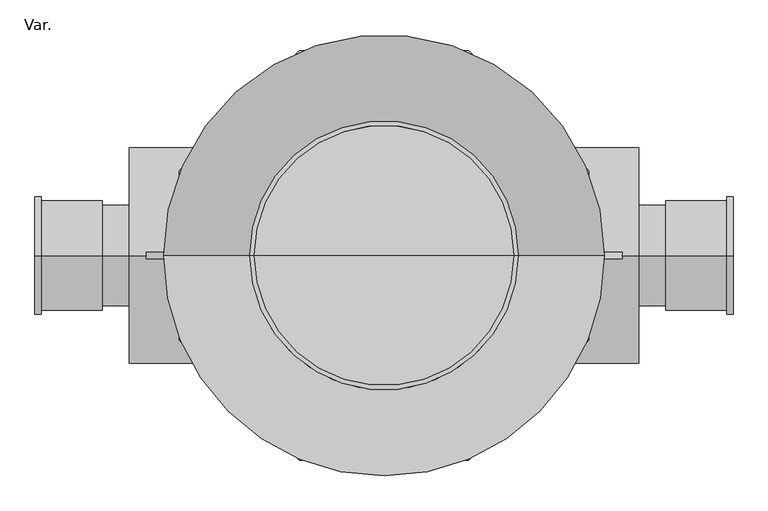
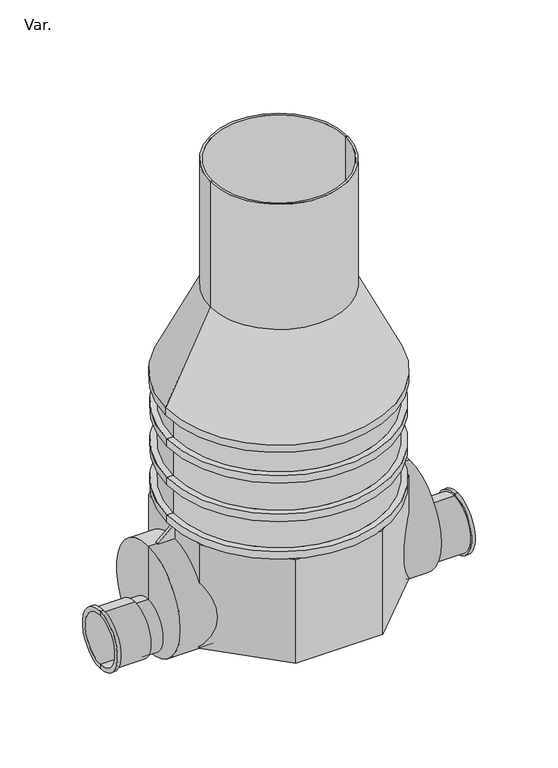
"""IFC4 building model written with IfcOpenShell, lengths in millimetres: pipe fitting geometry, PlastigamaWavin_Unionesdetubería_NovafortManholeIntegrado : Var.."""

from ifc_helpers import new_model, si_unit, frame, origin, origin_with_axes, place, context, project, spatial, polyline, circle_curve, outline, extrude, source, transform, mapped, element, save
from ifc_brep_helpers import plane_surface, cylinder_surface, revolved_surface, advanced_brep


def var_684be0d4(model_context):
    return source(origin(), model_context, "Body", "SolidModel", [
        extrude(outline(polyline([(409.73, 555.79), (484.73, 475.79), (409.73, 475.79), (409.73, 555.79)])), frame((0.0, -7.5, 0.0), z_axis=(0.0, 1.0, 0.0), x_axis=(0.0, 0.0, 1.0)), (0.0, 0.0, 1.0), 15.0),
        advanced_brep(
        [(592.49, 0.0, -77.76), (592.49, 0.0, 156.84), (654.49, 0.0, 156.84), (654.49, 0.0, -77.76), (654.49, 0.0, 166.84), (654.49, 0.0, -87.76), (796.49, 0.0, 166.84), (796.49, 0.0, -87.76), (592.49, 0.0, 39.54), (796.49, 0.0, 176.84), (796.49, 0.0, -97.76), (811.49, 0.0, 176.84), (811.49, 0.0, -97.76), (811.49, 0.0, 156.84), (811.49, 0.0, -77.76), (669.49, 0.0, 156.84), (669.49, 0.0, -77.76), (669.49, 0.0, 39.54)],
        [
            (0, 1, circle_curve(frame((592.49, 0.0, 39.54), z_axis=(1.0, 0.0, 0.0), x_axis=(0.0, 0.0, 1.0)), 117.3)),
            (1, 2),
            (2, 3, circle_curve(frame((654.49, 0.0, 39.54), z_axis=(-1.0, 0.0, 0.0), x_axis=(0.0, 0.0, 1.0)), 117.3)),
            (3, 0),
            (1, 0, circle_curve(frame((592.49, 0.0, 39.54), z_axis=(1.0, 0.0, 0.0), x_axis=(0.0, 0.0, 1.0)), 117.3)),
            (3, 2, circle_curve(frame((654.49, 0.0, 39.54), z_axis=(-1.0, 0.0, 0.0), x_axis=(0.0, 0.0, 1.0)), 117.3)),
            (2, 4),
            (4, 5, circle_curve(frame((654.49, 0.0, 39.54), z_axis=(-1.0, 0.0, 0.0), x_axis=(0.0, 0.0, 1.0)), 127.3)),
            (5, 3),
            (5, 4, circle_curve(frame((654.49, 0.0, 39.54), z_axis=(-1.0, 0.0, 0.0), x_axis=(0.0, 0.0, 1.0)), 127.3)),
            (4, 6),
            (6, 7, circle_curve(frame((796.49, 0.0, 39.54), z_axis=(-1.0, 0.0, 0.0), x_axis=(0.0, 0.0, 1.0)), 127.3)),
            (7, 5),
            (7, 6, circle_curve(frame((796.49, 0.0, 39.54), z_axis=(-1.0, 0.0, 0.0), x_axis=(0.0, 0.0, 1.0)), 127.3)),
            (8, 1),
            (0, 8),
            (6, 9),
            (9, 10, circle_curve(frame((796.49, 0.0, 39.54), z_axis=(-1.0, 0.0, 0.0), x_axis=(0.0, 0.0, 1.0)), 137.3)),
            (10, 7),
            (10, 9, circle_curve(frame((796.49, 0.0, 39.54), z_axis=(-1.0, 0.0, 0.0), x_axis=(0.0, 0.0, 1.0)), 137.3)),
            (9, 11),
            (11, 12, circle_curve(frame((811.49, 0.0, 39.54), z_axis=(-1.0, 0.0, 0.0), x_axis=(0.0, 0.0, 1.0)), 137.3)),
            (12, 10),
            (12, 11, circle_curve(frame((811.49, 0.0, 39.54), z_axis=(-1.0, 0.0, 0.0), x_axis=(0.0, 0.0, 1.0)), 137.3)),
            (11, 13),
            (13, 14, circle_curve(frame((811.49, 0.0, 39.54), z_axis=(-1.0, 0.0, 0.0), x_axis=(0.0, 0.0, 1.0)), 117.3)),
            (14, 12),
            (14, 13, circle_curve(frame((811.49, 0.0, 39.54), z_axis=(-1.0, 0.0, 0.0), x_axis=(0.0, 0.0, 1.0)), 117.3)),
            (13, 15),
            (15, 16, circle_curve(frame((669.49, 0.0, 39.54), z_axis=(-1.0, 0.0, 0.0), x_axis=(0.0, 0.0, 1.0)), 117.3)),
            (16, 14),
            (16, 15, circle_curve(frame((669.49, 0.0, 39.54), z_axis=(-1.0, 0.0, 0.0), x_axis=(0.0, 0.0, 1.0)), 117.3)),
            (15, 17),
            (17, 16),
        ],
        [
            cylinder_surface(frame((1076.44, 0.0, 39.54), z_axis=(-1.0, 0.0, 0.0), x_axis=(0.0, 0.0, 1.0)), 117.3),
            plane_surface(frame((654.49, 0.0, 39.54), z_axis=(-1.0, 0.0, 0.0), x_axis=(0.0, 0.0, 1.0))),
            cylinder_surface(frame((1076.44, 0.0, 39.54), z_axis=(-1.0, 0.0, 0.0), x_axis=(0.0, 0.0, 1.0)), 127.3),
            plane_surface(frame((592.49, 0.0, 39.54), z_axis=(-1.0, 0.0, 0.0), x_axis=(0.0, 0.0, 1.0))),
            plane_surface(frame((796.49, 0.0, 39.54), z_axis=(-1.0, 0.0, 0.0), x_axis=(0.0, 0.0, 1.0))),
            cylinder_surface(frame((1076.44, 0.0, 39.54), z_axis=(-1.0, 0.0, 0.0), x_axis=(0.0, 0.0, 1.0)), 137.3),
            plane_surface(frame((811.49, 0.0, 39.54), z_axis=(1.0, 0.0, 0.0), x_axis=(0.0, 0.0, 1.0))),
            revolved_surface(polyline([(669.49, 0.0, 156.84), (811.49, 0.0, 156.84)]), (1076.44, 0.0, 39.54), (-1.0, 0.0, 0.0)),
            plane_surface(frame((669.49, 0.0, 39.54), z_axis=(1.0, 0.0, 0.0), x_axis=(0.0, 0.0, 1.0))),
        ],
        [
            (0, [[1, 2, 3, 4]]),
            (0, [[5, -4, 6, -2]]),
            (1, [[-3, 7, 8, 9]]),
            (1, [[-6, -9, 10, -7]]),
            (2, [[-8, 11, 12, 13]]),
            (2, [[-10, -13, 14, -11]]),
            (3, [[15, -1, 16]]),
            (3, [[-16, -5, -15]]),
            (4, [[-12, 17, 18, 19]]),
            (4, [[-14, -19, 20, -17]]),
            (5, [[-18, 21, 22, 23]]),
            (5, [[-20, -23, 24, -21]]),
            (6, [[-22, 25, 26, 27]]),
            (6, [[-24, -27, 28, -25]]),
            (7, [[-26, 29, 30, 31]]),
            (7, [[-28, -31, 32, -29]]),
            (8, [[-30, 33, 34]]),
            (8, [[-32, -34, -33]]),
        ],
    ),
        advanced_brep(
        [(-592.49, 0.0, -87.76), (-592.49, 0.0, 412.24), (592.49, 0.0, 412.24), (592.49, 0.0, -87.76), (-592.49, 0.0, 162.24), (592.49, 0.0, 162.24)],
        [
            (0, 1, circle_curve(frame((-592.49, 0.0, 162.24), z_axis=(1.0, 0.0, 0.0), x_axis=(0.0, 0.0, 1.0)), 250.0)),
            (1, 2),
            (2, 3, circle_curve(frame((592.49, 0.0, 162.24), z_axis=(-1.0, 0.0, 0.0), x_axis=(0.0, 0.0, 1.0)), 250.0)),
            (3, 0),
            (1, 0, circle_curve(frame((-592.49, 0.0, 162.24), z_axis=(1.0, 0.0, 0.0), x_axis=(0.0, 0.0, 1.0)), 250.0)),
            (3, 2, circle_curve(frame((592.49, 0.0, 162.24), z_axis=(-1.0, 0.0, 0.0), x_axis=(0.0, 0.0, 1.0)), 250.0)),
            (4, 1),
            (0, 4),
            (2, 5),
            (5, 3),
        ],
        [
            cylinder_surface(frame((-592.49, 0.0, 162.24), z_axis=(-1.0, 0.0, 0.0), x_axis=(0.0, 0.0, 1.0)), 250.0),
            plane_surface(frame((-592.49, 0.0, 162.24), z_axis=(-1.0, 0.0, 0.0), x_axis=(0.0, 0.0, 1.0))),
            plane_surface(frame((592.49, 0.0, 162.24), z_axis=(1.0, 0.0, 0.0), x_axis=(0.0, 0.0, 1.0))),
        ],
        [
            (0, [[1, 2, 3, 4]]),
            (0, [[5, -4, 6, -2]]),
            (1, [[7, -1, 8]]),
            (1, [[-8, -5, -7]]),
            (2, [[-3, 9, 10]]),
            (2, [[-6, -10, -9]]),
        ],
    ),
        extrude(outline(polyline([(409.73, -555.79), (409.73, -475.79), (484.73, -475.79), (409.73, -555.79)])), frame((0.0, -7.5, 0.0), z_axis=(0.0, 1.0, 0.0), x_axis=(0.0, 0.0, 1.0)), (0.0, 0.0, 1.0), 15.0),
        advanced_brep(
        [(-654.49, 0.0, -77.76), (-654.49, 0.0, 156.84), (-592.49, 0.0, 156.84), (-592.49, 0.0, -77.76), (-654.49, 0.0, -87.76), (-654.49, 0.0, 166.84), (-796.49, 0.0, -87.76), (-796.49, 0.0, 166.84), (-592.49, 0.0, 39.54), (-796.49, 0.0, -97.76), (-796.49, 0.0, 176.84), (-811.49, 0.0, -97.76), (-811.49, 0.0, 176.84), (-811.49, 0.0, -77.76), (-811.49, 0.0, 156.84), (-669.49, 0.0, -77.76), (-669.49, 0.0, 156.84), (-669.49, 0.0, 39.54)],
        [
            (0, 1, circle_curve(frame((-654.49, 0.0, 39.54), z_axis=(1.0, 0.0, 0.0), x_axis=(0.0, 0.0, 1.0)), 117.3)),
            (1, 2),
            (2, 3, circle_curve(frame((-592.49, 0.0, 39.54), z_axis=(-1.0, 0.0, 0.0), x_axis=(0.0, 0.0, 1.0)), 117.3)),
            (3, 0),
            (1, 0, circle_curve(frame((-654.49, 0.0, 39.54), z_axis=(1.0, 0.0, 0.0), x_axis=(0.0, 0.0, 1.0)), 117.3)),
            (3, 2, circle_curve(frame((-592.49, 0.0, 39.54), z_axis=(-1.0, 0.0, 0.0), x_axis=(0.0, 0.0, 1.0)), 117.3)),
            (4, 5, circle_curve(frame((-654.49, 0.0, 39.54), z_axis=(1.0, 0.0, 0.0), x_axis=(0.0, 0.0, 1.0)), 127.3)),
            (5, 1),
            (0, 4),
            (5, 4, circle_curve(frame((-654.49, 0.0, 39.54), z_axis=(1.0, 0.0, 0.0), x_axis=(0.0, 0.0, 1.0)), 127.3)),
            (6, 7, circle_curve(frame((-796.49, 0.0, 39.54), z_axis=(1.0, 0.0, 0.0), x_axis=(0.0, 0.0, 1.0)), 127.3)),
            (7, 5),
            (4, 6),
            (7, 6, circle_curve(frame((-796.49, 0.0, 39.54), z_axis=(1.0, 0.0, 0.0), x_axis=(0.0, 0.0, 1.0)), 127.3)),
            (2, 8),
            (8, 3),
            (9, 10, circle_curve(frame((-796.49, 0.0, 39.54), z_axis=(1.0, 0.0, 0.0), x_axis=(0.0, 0.0, 1.0)), 137.3)),
            (10, 7),
            (6, 9),
            (10, 9, circle_curve(frame((-796.49, 0.0, 39.54), z_axis=(1.0, 0.0, 0.0), x_axis=(0.0, 0.0, 1.0)), 137.3)),
            (11, 12, circle_curve(frame((-811.49, 0.0, 39.54), z_axis=(1.0, 0.0, 0.0), x_axis=(0.0, 0.0, 1.0)), 137.3)),
            (12, 10),
            (9, 11),
            (12, 11, circle_curve(frame((-811.49, 0.0, 39.54), z_axis=(1.0, 0.0, 0.0), x_axis=(0.0, 0.0, 1.0)), 137.3)),
            (13, 14, circle_curve(frame((-811.49, 0.0, 39.54), z_axis=(1.0, 0.0, 0.0), x_axis=(0.0, 0.0, 1.0)), 117.3)),
            (14, 12),
            (11, 13),
            (14, 13, circle_curve(frame((-811.49, 0.0, 39.54), z_axis=(1.0, 0.0, 0.0), x_axis=(0.0, 0.0, 1.0)), 117.3)),
            (15, 16, circle_curve(frame((-669.49, 0.0, 39.54), z_axis=(1.0, 0.0, 0.0), x_axis=(0.0, 0.0, 1.0)), 117.3)),
            (16, 14),
            (13, 15),
            (16, 15, circle_curve(frame((-669.49, 0.0, 39.54), z_axis=(1.0, 0.0, 0.0), x_axis=(0.0, 0.0, 1.0)), 117.3)),
            (17, 16),
            (15, 17),
        ],
        [
            cylinder_surface(frame((-1001.44, 0.0, 39.54), z_axis=(-1.0, 0.0, 0.0), x_axis=(0.0, 0.0, 1.0)), 117.3),
            plane_surface(frame((-654.49, 0.0, 39.54), z_axis=(1.0, 0.0, 0.0), x_axis=(0.0, 0.0, 1.0))),
            cylinder_surface(frame((-1001.44, 0.0, 39.54), z_axis=(-1.0, 0.0, 0.0), x_axis=(0.0, 0.0, 1.0)), 127.3),
            plane_surface(frame((-592.49, 0.0, 39.54), z_axis=(1.0, 0.0, 0.0), x_axis=(0.0, 0.0, 1.0))),
            plane_surface(frame((-796.49, 0.0, 39.54), z_axis=(1.0, 0.0, 0.0), x_axis=(0.0, 0.0, 1.0))),
            cylinder_surface(frame((-1001.44, 0.0, 39.54), z_axis=(-1.0, 0.0, 0.0), x_axis=(0.0, 0.0, 1.0)), 137.3),
            plane_surface(frame((-811.49, 0.0, 39.54), z_axis=(-1.0, 0.0, 0.0), x_axis=(0.0, 0.0, 1.0))),
            revolved_surface(polyline([(-811.49, 0.0, 156.84), (-669.49, 0.0, 156.84)]), (-1001.44, 0.0, 39.54), (-1.0, 0.0, 0.0)),
            plane_surface(frame((-669.49, 0.0, 39.54), z_axis=(-1.0, 0.0, 0.0), x_axis=(0.0, 0.0, 1.0))),
        ],
        [
            (0, [[1, 2, 3, 4]]),
            (0, [[5, -4, 6, -2]]),
            (1, [[7, 8, -1, 9]]),
            (1, [[10, -9, -5, -8]]),
            (2, [[11, 12, -7, 13]]),
            (2, [[14, -13, -10, -12]]),
            (3, [[-3, 15, 16]]),
            (3, [[-6, -16, -15]]),
            (4, [[17, 18, -11, 19]]),
            (4, [[20, -19, -14, -18]]),
            (5, [[21, 22, -17, 23]]),
            (5, [[24, -23, -20, -22]]),
            (6, [[25, 26, -21, 27]]),
            (6, [[28, -27, -24, -26]]),
            (7, [[29, 30, -25, 31]]),
            (7, [[32, -31, -28, -30]]),
            (8, [[33, -29, 34]]),
            (8, [[-34, -32, -33]]),
        ],
    ),
        advanced_brep(
        [(480.0, 0.0, 1012.49), (-480.0, 0.0, 1012.49), (0.0, 0.0, 1012.49), (480.0, 0.0, 897.49), (-480.0, 0.0, 897.49), (508.0, 0.0, 897.49), (-508.0, 0.0, 897.49), (508.0, 0.0, 862.49), (-508.0, 0.0, 862.49), (480.0, 0.0, 862.49), (-480.0, 0.0, 862.49), (480.0, 0.0, 712.49), (-480.0, 0.0, 712.49), (508.0, 0.0, 712.49), (-508.0, 0.0, 712.49), (508.0, 0.0, 677.49), (-508.0, 0.0, 677.49), (480.0, 0.0, 677.49), (-480.0, 0.0, 677.49), (480.0, 0.0, 532.49), (-480.0, 0.0, 532.49), (508.0, 0.0, 532.49), (-508.0, 0.0, 532.49), (508.0, 0.0, 497.49), (-508.0, 0.0, 497.49), (0.0, 0.0, 497.49)],
        [
            (0, 1, circle_curve(frame((0.0, 0.0, 1012.49), z_axis=(0.0, 0.0, 1.0), x_axis=(-1.0, 0.0, 0.0)), 480.0)),
            (1, 2),
            (2, 0),
            (1, 0, circle_curve(frame((0.0, 0.0, 1012.49), z_axis=(0.0, 0.0, 1.0), x_axis=(-1.0, 0.0, 0.0)), 480.0)),
            (3, 4, circle_curve(frame((0.0, 0.0, 897.49), z_axis=(0.0, 0.0, 1.0), x_axis=(-1.0, 0.0, 0.0)), 480.0)),
            (4, 1),
            (0, 3),
            (4, 3, circle_curve(frame((0.0, 0.0, 897.49), z_axis=(0.0, 0.0, 1.0), x_axis=(-1.0, 0.0, 0.0)), 480.0)),
            (5, 6, circle_curve(frame((0.0, 0.0, 897.49), z_axis=(0.0, 0.0, 1.0), x_axis=(-1.0, 0.0, 0.0)), 508.0)),
            (6, 4),
            (3, 5),
            (6, 5, circle_curve(frame((0.0, 0.0, 897.49), z_axis=(0.0, 0.0, 1.0), x_axis=(-1.0, 0.0, 0.0)), 508.0)),
            (7, 8, circle_curve(frame((0.0, 0.0, 862.49), z_axis=(0.0, 0.0, 1.0), x_axis=(-1.0, 0.0, 0.0)), 508.0)),
            (8, 6),
            (5, 7),
            (8, 7, circle_curve(frame((0.0, 0.0, 862.49), z_axis=(0.0, 0.0, 1.0), x_axis=(-1.0, 0.0, 0.0)), 508.0)),
            (9, 10, circle_curve(frame((0.0, 0.0, 862.49), z_axis=(0.0, 0.0, 1.0), x_axis=(-1.0, 0.0, 0.0)), 480.0)),
            (10, 8),
            (7, 9),
            (10, 9, circle_curve(frame((0.0, 0.0, 862.49), z_axis=(0.0, 0.0, 1.0), x_axis=(-1.0, 0.0, 0.0)), 480.0)),
            (11, 12, circle_curve(frame((0.0, 0.0, 712.49), z_axis=(0.0, 0.0, 1.0), x_axis=(-1.0, 0.0, 0.0)), 480.0)),
            (12, 10),
            (9, 11),
            (12, 11, circle_curve(frame((0.0, 0.0, 712.49), z_axis=(0.0, 0.0, 1.0), x_axis=(-1.0, 0.0, 0.0)), 480.0)),
            (13, 14, circle_curve(frame((0.0, 0.0, 712.49), z_axis=(0.0, 0.0, 1.0), x_axis=(-1.0, 0.0, 0.0)), 508.0)),
            (14, 12),
            (11, 13),
            (14, 13, circle_curve(frame((0.0, 0.0, 712.49), z_axis=(0.0, 0.0, 1.0), x_axis=(-1.0, 0.0, 0.0)), 508.0)),
            (15, 16, circle_curve(frame((0.0, 0.0, 677.49), z_axis=(0.0, 0.0, 1.0), x_axis=(-1.0, 0.0, 0.0)), 508.0)),
            (16, 14),
            (13, 15),
            (16, 15, circle_curve(frame((0.0, 0.0, 677.49), z_axis=(0.0, 0.0, 1.0), x_axis=(-1.0, 0.0, 0.0)), 508.0)),
            (17, 18, circle_curve(frame((0.0, 0.0, 677.49), z_axis=(0.0, 0.0, 1.0), x_axis=(-1.0, 0.0, 0.0)), 480.0)),
            (18, 16),
            (15, 17),
            (18, 17, circle_curve(frame((0.0, 0.0, 677.49), z_axis=(0.0, 0.0, 1.0), x_axis=(-1.0, 0.0, 0.0)), 480.0)),
            (19, 20, circle_curve(frame((0.0, 0.0, 532.49), z_axis=(0.0, 0.0, 1.0), x_axis=(-1.0, 0.0, 0.0)), 480.0)),
            (20, 18),
            (17, 19),
            (20, 19, circle_curve(frame((0.0, 0.0, 532.49), z_axis=(0.0, 0.0, 1.0), x_axis=(-1.0, 0.0, 0.0)), 480.0)),
            (21, 22, circle_curve(frame((0.0, 0.0, 532.49), z_axis=(0.0, 0.0, 1.0), x_axis=(-1.0, 0.0, 0.0)), 508.0)),
            (22, 20),
            (19, 21),
            (22, 21, circle_curve(frame((0.0, 0.0, 532.49), z_axis=(0.0, 0.0, 1.0), x_axis=(-1.0, 0.0, 0.0)), 508.0)),
            (23, 24, circle_curve(frame((0.0, 0.0, 497.49), z_axis=(0.0, 0.0, 1.0), x_axis=(-1.0, 0.0, 0.0)), 508.0)),
            (24, 22),
            (21, 23),
            (24, 23, circle_curve(frame((0.0, 0.0, 497.49), z_axis=(0.0, 0.0, 1.0), x_axis=(-1.0, 0.0, 0.0)), 508.0)),
            (25, 24),
            (23, 25),
        ],
        [
            plane_surface(frame((0.0, 0.0, 1012.49), z_axis=(0.0, 0.0, 1.0), x_axis=(-1.0, 0.0, 0.0))),
            cylinder_surface(frame((0.0, 0.0, 1012.49), z_axis=(0.0, 0.0, -1.0), x_axis=(-1.0, 0.0, 0.0)), 480.0),
            plane_surface(frame((0.0, 0.0, 897.49), z_axis=(0.0, 0.0, 1.0), x_axis=(-1.0, 0.0, 0.0))),
            cylinder_surface(frame((0.0, 0.0, 1012.49), z_axis=(0.0, 0.0, -1.0), x_axis=(-1.0, 0.0, 0.0)), 508.0),
            plane_surface(frame((0.0, 0.0, 862.49), z_axis=(0.0, 0.0, -1.0), x_axis=(-1.0, 0.0, 0.0))),
            plane_surface(frame((0.0, 0.0, 712.49), z_axis=(0.0, 0.0, 1.0), x_axis=(-1.0, 0.0, 0.0))),
            plane_surface(frame((0.0, 0.0, 677.49), z_axis=(0.0, 0.0, -1.0), x_axis=(-1.0, 0.0, 0.0))),
            plane_surface(frame((0.0, 0.0, 532.49), z_axis=(0.0, 0.0, 1.0), x_axis=(-1.0, 0.0, 0.0))),
            plane_surface(frame((0.0, 0.0, 497.49), z_axis=(0.0, 0.0, -1.0), x_axis=(-1.0, 0.0, 0.0))),
        ],
        [
            (0, [[1, 2, 3]]),
            (0, [[4, -3, -2]]),
            (1, [[5, 6, -1, 7]]),
            (1, [[8, -7, -4, -6]]),
            (2, [[9, 10, -5, 11]]),
            (2, [[12, -11, -8, -10]]),
            (3, [[13, 14, -9, 15]]),
            (3, [[16, -15, -12, -14]]),
            (4, [[17, 18, -13, 19]]),
            (4, [[20, -19, -16, -18]]),
            (1, [[21, 22, -17, 23]]),
            (1, [[24, -23, -20, -22]]),
            (5, [[25, 26, -21, 27]]),
            (5, [[28, -27, -24, -26]]),
            (3, [[29, 30, -25, 31]]),
            (3, [[32, -31, -28, -30]]),
            (6, [[33, 34, -29, 35]]),
            (6, [[36, -35, -32, -34]]),
            (1, [[37, 38, -33, 39]]),
            (1, [[40, -39, -36, -38]]),
            (7, [[41, 42, -37, 43]]),
            (7, [[44, -43, -40, -42]]),
            (3, [[45, 46, -41, 47]]),
            (3, [[48, -47, -44, -46]]),
            (8, [[49, -45, 50]]),
            (8, [[-50, -48, -49]]),
        ],
    ),
        advanced_brep(
        [(312.5, 0.0, 1462.93), (-312.5, 0.0, 1462.93), (-312.5, 0.0, 2062.93), (312.5, 0.0, 2062.93), (-302.5, 0.0, 2062.93), (302.5, 0.0, 2062.93), (512.5, 0.0, 1012.49), (-512.5, 0.0, 1012.49), (-512.5, 0.0, 1047.49), (512.5, 0.0, 1047.49), (0.0, 0.0, 1012.49), (302.5, 0.0, 1462.93), (-302.5, 0.0, 1462.93), (0.0, 0.0, 1462.93)],
        [
            (0, 1, circle_curve(frame((0.0, 0.0, 1462.93), z_axis=(0.0, 0.0, 1.0), x_axis=(-1.0, 0.0, 0.0)), 312.5)),
            (1, 2),
            (2, 3, circle_curve(frame((0.0, 0.0, 2062.93), z_axis=(0.0, 0.0, -1.0), x_axis=(-1.0, 0.0, 0.0)), 312.5)),
            (3, 0),
            (1, 0, circle_curve(frame((0.0, 0.0, 1462.93), z_axis=(0.0, 0.0, 1.0), x_axis=(-1.0, 0.0, 0.0)), 312.5)),
            (3, 2, circle_curve(frame((0.0, 0.0, 2062.93), z_axis=(0.0, 0.0, -1.0), x_axis=(-1.0, 0.0, 0.0)), 312.5)),
            (2, 4),
            (4, 5, circle_curve(frame((0.0, 0.0, 2062.93), z_axis=(0.0, 0.0, -1.0), x_axis=(-1.0, 0.0, 0.0)), 302.5)),
            (5, 3),
            (5, 4, circle_curve(frame((0.0, 0.0, 2062.93), z_axis=(0.0, 0.0, -1.0), x_axis=(-1.0, 0.0, 0.0)), 302.5)),
            (6, 7, circle_curve(frame((0.0, 0.0, 1012.49), z_axis=(0.0, 0.0, 1.0), x_axis=(-1.0, 0.0, 0.0)), 512.5)),
            (7, 8),
            (8, 9, circle_curve(frame((0.0, 0.0, 1047.49), z_axis=(0.0, 0.0, -1.0), x_axis=(-1.0, 0.0, 0.0)), 512.5)),
            (9, 6),
            (7, 6, circle_curve(frame((0.0, 0.0, 1012.49), z_axis=(0.0, 0.0, 1.0), x_axis=(-1.0, 0.0, 0.0)), 512.5)),
            (9, 8, circle_curve(frame((0.0, 0.0, 1047.49), z_axis=(0.0, 0.0, -1.0), x_axis=(-1.0, 0.0, 0.0)), 512.5)),
            (10, 7),
            (6, 10),
            (11, 12, circle_curve(frame((0.0, 0.0, 1462.93), z_axis=(0.0, 0.0, 1.0), x_axis=(-1.0, 0.0, 0.0)), 302.5)),
            (12, 13),
            (13, 11),
            (12, 11, circle_curve(frame((0.0, 0.0, 1462.93), z_axis=(0.0, 0.0, 1.0), x_axis=(-1.0, 0.0, 0.0)), 302.5)),
            (4, 12),
            (11, 5),
            (8, 1),
            (0, 9),
        ],
        [
            cylinder_surface(frame((0.0, 0.0, 2027.93), z_axis=(0.0, 0.0, -1.0), x_axis=(-1.0, 0.0, 0.0)), 312.5),
            plane_surface(frame((0.0, 0.0, 2062.93), z_axis=(0.0, 0.0, 1.0), x_axis=(-1.0, 0.0, 0.0))),
            cylinder_surface(frame((0.0, 0.0, 2027.93), z_axis=(0.0, 0.0, -1.0), x_axis=(-1.0, 0.0, 0.0)), 512.5),
            plane_surface(frame((0.0, 0.0, 1012.49), z_axis=(0.0, 0.0, -1.0), x_axis=(-1.0, 0.0, 0.0))),
            plane_surface(frame((0.0, 0.0, 1462.93), z_axis=(0.0, 0.0, 1.0), x_axis=(-1.0, 0.0, 0.0))),
            revolved_surface(polyline([(-302.5, 0.0, 1462.93), (-302.5, 0.0, 2062.93)]), (0.0, 0.0, 2027.93), (0.0, 0.0, -1.0)),
            revolved_surface(polyline([(-312.5, 0.0, 1462.93), (-512.5, 0.0, 1047.49)]), (0.0, 0.0, 2027.93), (0.0, 0.0, -1.0)),
        ],
        [
            (0, [[1, 2, 3, 4]]),
            (0, [[5, -4, 6, -2]]),
            (1, [[-3, 7, 8, 9]]),
            (1, [[-6, -9, 10, -7]]),
            (2, [[11, 12, 13, 14]]),
            (2, [[15, -14, 16, -12]]),
            (3, [[17, -11, 18]]),
            (3, [[-18, -15, -17]]),
            (4, [[19, 20, 21]]),
            (4, [[22, -21, -20]]),
            (5, [[-8, 23, -19, 24]]),
            (5, [[-10, -24, -22, -23]]),
            (6, [[-13, 25, -1, 26]]),
            (6, [[-16, -26, -5, -25]]),
        ],
    ),
        extrude(outline(polyline([(197.0832089, 475.79), (475.79, 197.0832089), (475.79, -197.0832089), (197.0832089, -475.79), (-197.0832089, -475.79), (-475.79, -197.08), (-475.79, 197.08), (-197.0832089, 475.79), (197.0832089, 475.79)])), origin_with_axes(), (0.0, 0.0, 1.0), 497.49),
    ])


if __name__ == "__main__":
    model = new_model("IFC4")
    model_context = context("Model", 3, world=origin())
    ifc_project = project(units=[si_unit("LENGTHUNIT", "METRE", prefix="MILLI")], contexts=[model_context])
    site = spatial("IfcSite", under=ifc_project)
    building = spatial("IfcBuilding", under=site)
    placement = place(None, origin())
    var_shape = var_684be0d4(model_context)
    element("IfcPipeFitting", 1, ObjectType="PlastigamaWavin_Unionesdetubería_NovafortManholeIntegrado : Var.", at=placement, inside=building, context=model_context, shape_type="MappedRepresentation", body=[
        mapped(var_shape, transform((0.0, 0.0, 0.0), x_axis=(1.0, 0.0, 0.0), y_axis=(0.0, 1.0, 0.0), z_axis=(0.0, 0.0, 1.0))),
    ])
    save(model, "model.ifc")
